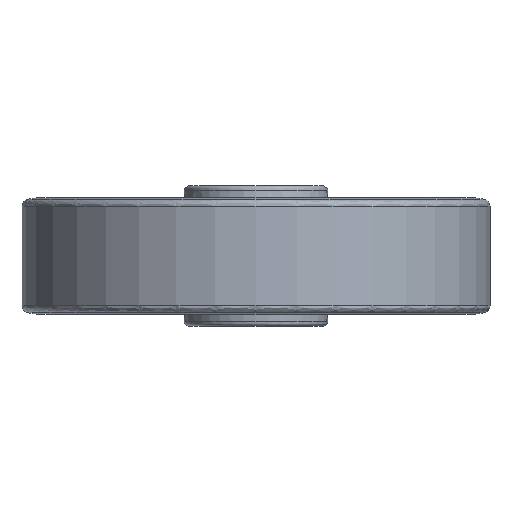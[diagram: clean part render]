
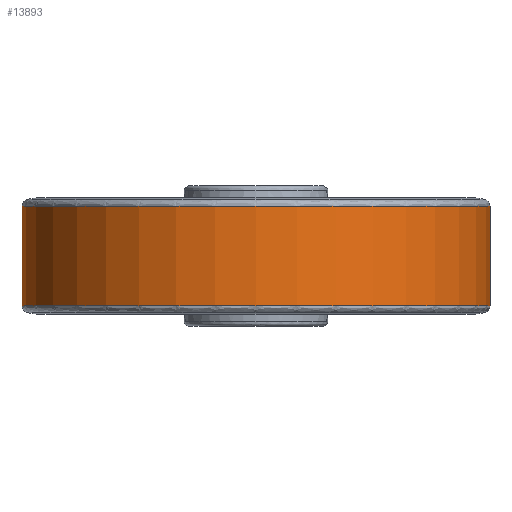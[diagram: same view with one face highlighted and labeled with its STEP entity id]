
A CAD part, front view. The second image highlights one B-rep face of the part: STEP entity #13893.
In plain terms, the highlighted cylindrical face has radius 100 mm (diameter 200 mm), a full revolution.
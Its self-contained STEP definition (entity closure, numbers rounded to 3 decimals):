
#13830=CARTESIAN_POINT('',(0.0,100.,21.248));
#13831=VERTEX_POINT('',#13830);
#13839=CARTESIAN_POINT('',(0.0,-100.,21.248));
#13840=VERTEX_POINT('',#13839);
#13841=CARTESIAN_POINT('',(0.0,0.,21.248));
#13842=DIRECTION('',(0.0,0.,-1.0));
#13843=DIRECTION('',(0.0,1.0,0.));
#13844=AXIS2_PLACEMENT_3D('',#13841,#13842,#13843);
#13845=CIRCLE('',#13844,100.);
#13846=EDGE_CURVE('',#13840,#13831,#13845,.T.);
#13848=CARTESIAN_POINT('',(0.0,0.,21.248));
#13849=DIRECTION('',(0.0,0.,-1.0));
#13850=DIRECTION('',(0.0,1.0,0.));
#13851=AXIS2_PLACEMENT_3D('',#13848,#13849,#13850);
#13852=CIRCLE('',#13851,100.);
#13853=EDGE_CURVE('',#13831,#13840,#13852,.T.);
#13859=CARTESIAN_POINT('',(0.0,0.,21.248));
#13860=DIRECTION('',(0.0,0.,-1.0));
#13861=DIRECTION('',(0.0,1.0,0.));
#13862=AXIS2_PLACEMENT_3D('',#13859,#13860,#13861);
#13863=CYLINDRICAL_SURFACE('',#13862,100.);
#13864=ORIENTED_EDGE('',*,*,#13853,.T.);
#13865=ORIENTED_EDGE('',*,*,#13846,.T.);
#13866=CARTESIAN_POINT('',(0.0,100.,-21.248));
#13867=VERTEX_POINT('',#13866);
#13868=CARTESIAN_POINT('',(0.0,100.,21.248));
#13869=DIRECTION('',(0.0,0.,-1.0));
#13870=VECTOR('',#13869,42.497);
#13871=LINE('',#13868,#13870);
#13872=EDGE_CURVE('',#13831,#13867,#13871,.T.);
#13873=ORIENTED_EDGE('',*,*,#13872,.T.);
#13874=CARTESIAN_POINT('',(0.0,-100.,-21.248));
#13875=VERTEX_POINT('',#13874);
#13876=CARTESIAN_POINT('',(0.0,0.,-21.248));
#13877=DIRECTION('',(0.0,0.,-1.0));
#13878=DIRECTION('',(0.0,1.0,0.));
#13879=AXIS2_PLACEMENT_3D('',#13876,#13877,#13878);
#13880=CIRCLE('',#13879,100.);
#13881=EDGE_CURVE('',#13875,#13867,#13880,.T.);
#13882=ORIENTED_EDGE('',*,*,#13881,.F.);
#13883=CARTESIAN_POINT('',(0.0,0.,-21.248));
#13884=DIRECTION('',(0.0,0.,-1.0));
#13885=DIRECTION('',(0.0,1.0,0.));
#13886=AXIS2_PLACEMENT_3D('',#13883,#13884,#13885);
#13887=CIRCLE('',#13886,100.);
#13888=EDGE_CURVE('',#13867,#13875,#13887,.T.);
#13889=ORIENTED_EDGE('',*,*,#13888,.F.);
#13890=ORIENTED_EDGE('',*,*,#13872,.F.);
#13891=EDGE_LOOP('',(#13864,#13865,#13873,#13882,#13889,#13890));
#13892=FACE_OUTER_BOUND('',#13891,.T.);
#13893=ADVANCED_FACE('',(#13892),#13863,.T.);
